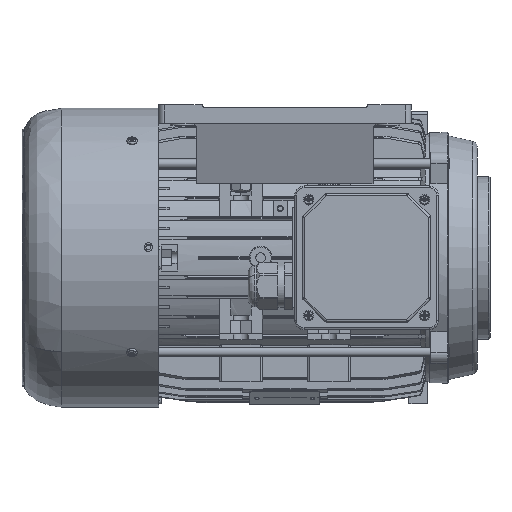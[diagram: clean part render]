
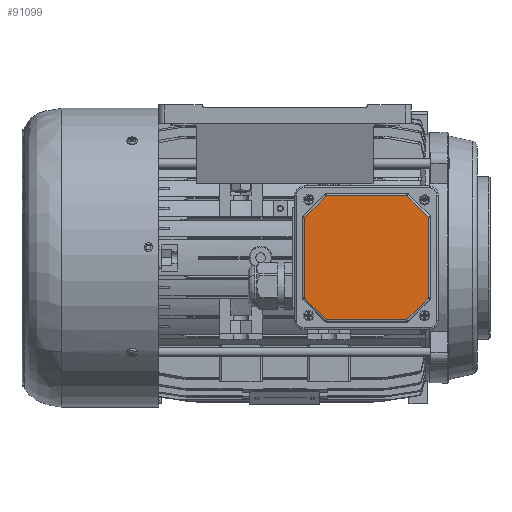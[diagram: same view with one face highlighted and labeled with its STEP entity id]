
A CAD part, front view. The second image highlights one B-rep face of the part: STEP entity #91099.
In plain terms, the highlighted planar face has unit normal (0, -1, 0).
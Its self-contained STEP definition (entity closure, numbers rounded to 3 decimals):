
#8357=PLANE('',#96867);
#12175=FACE_OUTER_BOUND('',#17467,.T.);
#17467=EDGE_LOOP('',(#73292,#73293,#73294,#73295,#73296,#73297,#73298,#73299));
#24816=LINE('',#139978,#33318);
#24817=LINE('',#139984,#33319);
#24818=LINE('',#139986,#33320);
#24819=LINE('',#139988,#33321);
#24820=LINE('',#139990,#33322);
#24821=LINE('',#139992,#33323);
#24822=LINE('',#139993,#33324);
#24823=LINE('',#139994,#33325);
#33318=VECTOR('',#112244,26.627);
#33319=VECTOR('',#112251,26.627);
#33320=VECTOR('',#112252,69.343);
#33321=VECTOR('',#112253,26.627);
#33322=VECTOR('',#112254,69.343);
#33323=VECTOR('',#112255,26.627);
#33324=VECTOR('',#112256,69.343);
#33325=VECTOR('',#112257,69.343);
#44220=VERTEX_POINT('',#139976);
#44221=VERTEX_POINT('',#139977);
#44222=VERTEX_POINT('',#139982);
#44223=VERTEX_POINT('',#139983);
#44224=VERTEX_POINT('',#139985);
#44225=VERTEX_POINT('',#139987);
#44226=VERTEX_POINT('',#139989);
#44227=VERTEX_POINT('',#139991);
#54719=EDGE_CURVE('',#44220,#44221,#24816,.T.);
#54722=EDGE_CURVE('',#44222,#44223,#24817,.T.);
#54723=EDGE_CURVE('',#44224,#44223,#24818,.T.);
#54724=EDGE_CURVE('',#44224,#44225,#24819,.T.);
#54725=EDGE_CURVE('',#44226,#44225,#24820,.T.);
#54726=EDGE_CURVE('',#44226,#44227,#24821,.T.);
#54727=EDGE_CURVE('',#44220,#44227,#24822,.T.);
#54728=EDGE_CURVE('',#44222,#44221,#24823,.T.);
#73292=ORIENTED_EDGE('',*,*,#54722,.T.);
#73293=ORIENTED_EDGE('',*,*,#54723,.F.);
#73294=ORIENTED_EDGE('',*,*,#54724,.T.);
#73295=ORIENTED_EDGE('',*,*,#54725,.F.);
#73296=ORIENTED_EDGE('',*,*,#54726,.T.);
#73297=ORIENTED_EDGE('',*,*,#54727,.F.);
#73298=ORIENTED_EDGE('',*,*,#54719,.T.);
#73299=ORIENTED_EDGE('',*,*,#54728,.F.);
#91099=ADVANCED_FACE('',(#12175),#8357,.T.);
#96867=AXIS2_PLACEMENT_3D('',#139981,#112249,#112250);
#112244=DIRECTION('',(-0.707,0.,-0.707));
#112249=DIRECTION('center_axis',(0.,-1.,0.));
#112250=DIRECTION('ref_axis',(0.,0.,-1.));
#112251=DIRECTION('',(0.707,0.,-0.707));
#112252=DIRECTION('',(-1.,0.,0.));
#112253=DIRECTION('',(0.707,0.,0.707));
#112254=DIRECTION('',(0.,0.,-1.));
#112255=DIRECTION('',(-0.707,0.,0.707));
#112256=DIRECTION('',(1.,0.,0.));
#112257=DIRECTION('',(0.,0.,1.));
#139976=CARTESIAN_POINT('',(35.828,-203.503,42.623));
#139977=CARTESIAN_POINT('',(17.,-203.503,23.795));
#139978=CARTESIAN_POINT('',(35.828,-203.503,42.623));
#139981=CARTESIAN_POINT('Origin',(15.,-203.503,44.623));
#139982=CARTESIAN_POINT('',(17.,-203.503,-45.549));
#139983=CARTESIAN_POINT('',(35.828,-203.503,-64.377));
#139984=CARTESIAN_POINT('',(17.,-203.503,-45.549));
#139985=CARTESIAN_POINT('',(105.172,-203.503,-64.377));
#139986=CARTESIAN_POINT('',(105.172,-203.503,-64.377));
#139987=CARTESIAN_POINT('',(124.,-203.503,-45.549));
#139988=CARTESIAN_POINT('',(105.172,-203.503,-64.377));
#139989=CARTESIAN_POINT('',(124.,-203.503,23.795));
#139990=CARTESIAN_POINT('',(124.,-203.503,23.795));
#139991=CARTESIAN_POINT('',(105.172,-203.503,42.623));
#139992=CARTESIAN_POINT('',(124.,-203.503,23.795));
#139993=CARTESIAN_POINT('',(35.828,-203.503,42.623));
#139994=CARTESIAN_POINT('',(17.,-203.503,-45.549));
